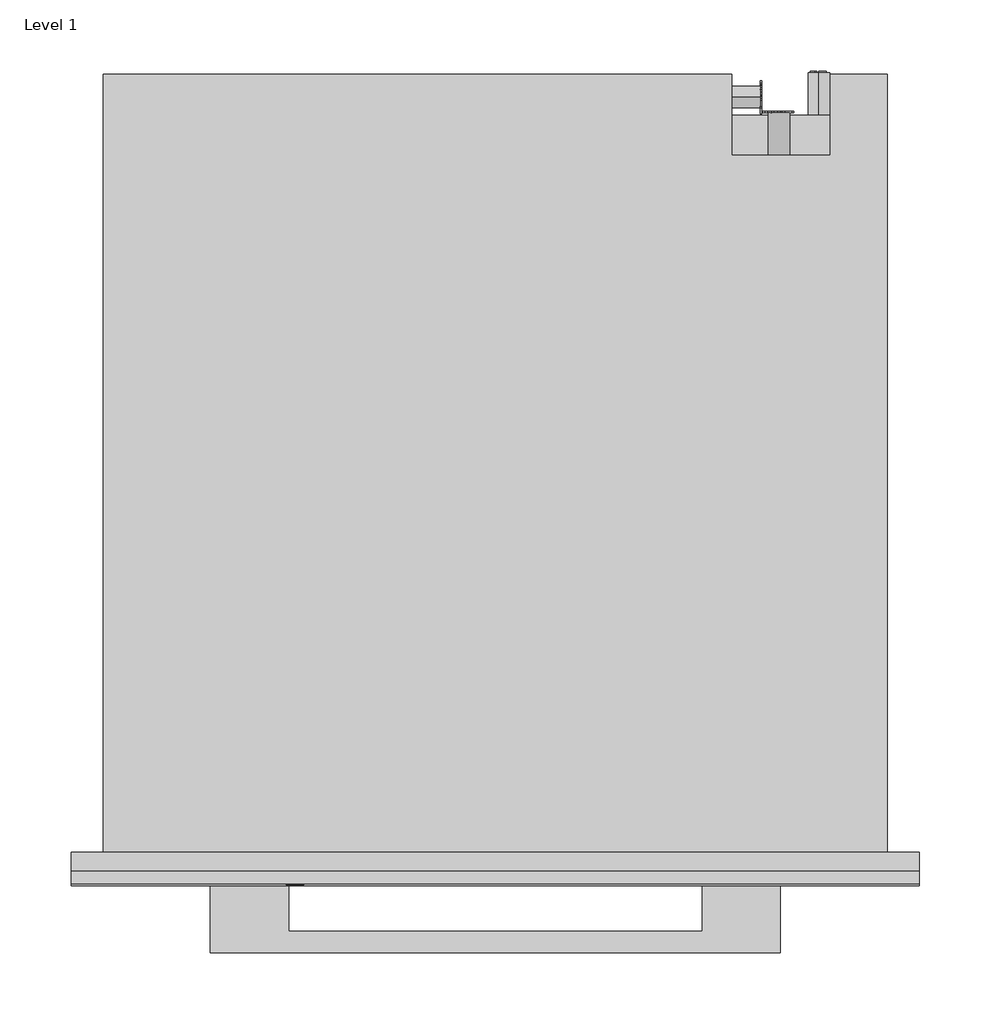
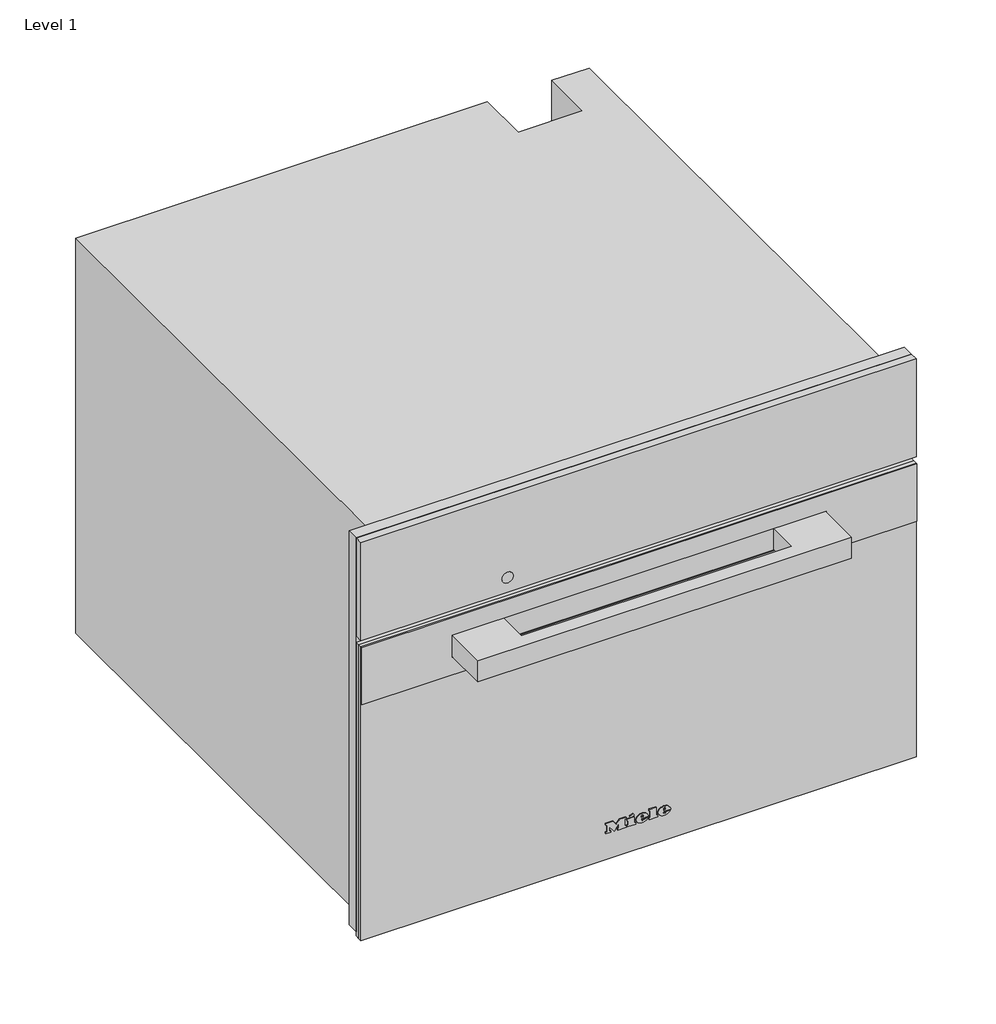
# One storey: 1 proxy.
"""IFC4 building model written with IfcOpenShell, lengths in millimetres."""

import ifcopenshell
import ifcopenshell.guid

model = None  # the IFC model being written
_history = None  # IfcOwnerHistory: only IFC2X3 demands one
_inside = {}  # id of a spatial element -> (the spatial element, [elements in it])
_under = {}  # id of a project, library or spatial element -> (it, [spatial elements below it])
_declared = {}  # id of a project -> (the project, [libraries it declares])
_typed = {}  # id of a type object -> (the type object, [elements of that type])
_made_of = {}  # id of a material, layer set ... -> (it, [elements and type objects made of it])


def new_model(schema):
    """Start an empty IFC model of exactly this schema.

    Asked for "IFC4X3", IfcOpenShell would pick the latest addendum, in which some entities
    have other attributes; the version numbers below select the first issue.
    IFC2X3 requires an IfcOwnerHistory on every rooted entity: one is made here for all.
    """
    global model, _history
    if schema == "IFC4X3":
        model = ifcopenshell.file(schema_version=(4, 3, 0, 0))
    else:
        model = ifcopenshell.file(schema=schema)
    _inside.clear()
    _under.clear()
    _declared.clear()
    _typed.clear()
    _made_of.clear()
    _history = None
    if model.schema == "IFC2X3":
        org = make("IfcOrganization", Name="unknown")
        user = make(
            "IfcPersonAndOrganization",
            ThePerson=make("IfcPerson", FamilyName="unknown"),
            TheOrganization=org,
        )
        app = make(
            "IfcApplication",
            ApplicationDeveloper=org,
            Version="unknown",
            ApplicationFullName="unknown",
            ApplicationIdentifier="unknown",
        )
        _history = make(
            "IfcOwnerHistory",
            OwningUser=user,
            OwningApplication=app,
            ChangeAction="ADDED",
            CreationDate=0,
        )
    return model


def make(cls, **values):
    """One entity of the class cls with the attributes given. An attribute that is None is left unset."""
    return model.create_entity(
        cls, **{name: value for name, value in values.items() if value is not None}
    )


def rooted(cls, **values):
    """An entity with a GlobalId (a new one), such as an element, a storey or a relation."""
    return make(cls, GlobalId=ifcopenshell.guid.new(), OwnerHistory=_history, **values)


def si_unit(unit_type, name, prefix=None):
    """IfcSIUnit, for example si_unit("LENGTHUNIT", "METRE", prefix="MILLI")."""
    return make("IfcSIUnit", UnitType=unit_type, Prefix=prefix, Name=name)


def assignment(units):
    """IfcUnitAssignment: the units of a project."""
    return None if units is None else make("IfcUnitAssignment", Units=units)


def point(xyz):
    """IfcCartesianPoint."""
    return None if xyz is None else make("IfcCartesianPoint", Coordinates=xyz)


def direction(xyz):
    """IfcDirection."""
    return None if xyz is None else make("IfcDirection", DirectionRatios=xyz)


def frame(location, z_axis=None, x_axis=None):
    """IfcAxis2Placement3D, a coordinate frame: its origin and axes. An axis left out is left unset."""
    return make(
        "IfcAxis2Placement3D",
        Location=point(location),
        Axis=direction(z_axis),
        RefDirection=direction(x_axis),
    )


def frame_2d(location, x_axis=None):
    """IfcAxis2Placement2D, a coordinate frame in the plane: its origin and x axis."""
    return make(
        "IfcAxis2Placement2D", Location=point(location), RefDirection=direction(x_axis)
    )


def origin():
    """The frame at (0, 0, 0) with its axes left unset."""
    return frame((0.0, 0.0, 0.0))


def place(relative_to, where):
    """IfcLocalPlacement: puts the frame where relative to a parent placement (None: the world)."""
    return make(
        "IfcLocalPlacement", PlacementRelTo=relative_to, RelativePlacement=where
    )


def context(
    kind, dimensions, precision=None, world=None, true_north=None, identifier=None
):
    """IfcGeometricRepresentationContext, for example the 3D "Model" context."""
    return make(
        "IfcGeometricRepresentationContext",
        ContextIdentifier=identifier,
        ContextType=kind,
        CoordinateSpaceDimension=dimensions,
        Precision=precision,
        WorldCoordinateSystem=world,
        TrueNorth=true_north,
    )


def project(units=None, contexts=None):
    """IfcProject with its units and contexts."""
    return rooted(
        "IfcProject",
        Name="project",
        RepresentationContexts=contexts,
        UnitsInContext=assignment(units),
    )


def spatial(cls, under=None, at=None, **own):
    """A site, building, storey or space (cls), placed at a placement, below another one or the project."""
    s = rooted(cls, ObjectPlacement=at, **own)
    if under is not None:
        _under.setdefault(under.id(), (under, []))[1].append(s)
    return s


def polyline(points):
    """IfcPolyline through the points."""
    return make("IfcPolyline", Points=[point(p) for p in points])


def circle_curve(where, radius):
    """IfcCircle in the frame where."""
    return make("IfcCircle", Position=where, Radius=radius)


def ellipse_curve(where, semi_axis1, semi_axis2):
    """IfcEllipse in the frame where."""
    return make(
        "IfcEllipse", Position=where, SemiAxis1=semi_axis1, SemiAxis2=semi_axis2
    )


def trimmed(basis, trim1, trim2, sense, master):
    """IfcTrimmedCurve: the piece of a basis curve between two trims."""
    return make(
        "IfcTrimmedCurve",
        BasisCurve=basis,
        Trim1=trim1,
        Trim2=trim2,
        SenseAgreement=sense,
        MasterRepresentation=master,
    )


def segment(curve, same_sense, transition):
    """IfcCompositeCurveSegment."""
    return make(
        "IfcCompositeCurveSegment",
        Transition=transition,
        SameSense=same_sense,
        ParentCurve=curve,
    )


def composite_curve(segments, self_intersect=None):
    """IfcCompositeCurve: segments joined end to end."""
    return make("IfcCompositeCurve", Segments=segments, SelfIntersect=self_intersect)


def outline(outer, holes=None, kind="AREA"):
    """IfcArbitraryClosedProfileDef: a profile drawn as a closed curve; with holes, ...WithVoids."""
    if holes is None:
        return make("IfcArbitraryClosedProfileDef", ProfileType=kind, OuterCurve=outer)
    return make(
        "IfcArbitraryProfileDefWithVoids",
        ProfileType=kind,
        OuterCurve=outer,
        InnerCurves=holes,
    )


def extrude(swept, where, along, depth):
    """IfcExtrudedAreaSolid: the profile swept, set in the frame where, extruded along a direction by depth."""
    return make(
        "IfcExtrudedAreaSolid",
        SweptArea=swept,
        Position=where,
        ExtrudedDirection=direction(along),
        Depth=depth,
    )


def faces_of(points, faces, orient=None, outer=None):
    """IfcFace entities. A face is a list of loops; a loop is a list of indices into points, from 0.

    orient and outer hold one flag for each loop. By default every Orientation is true, the
    first loop of a face is its IfcFaceOuterBound and the others are IfcFaceBound.
    """
    made = []
    for i, loops in enumerate(faces):
        bounds = []
        for j, loop in enumerate(loops):
            is_outer = j == 0 if outer is None else outer[i][j]
            bounds.append(
                make(
                    "IfcFaceOuterBound" if is_outer else "IfcFaceBound",
                    Bound=make("IfcPolyLoop", Polygon=[points[k] for k in loop]),
                    Orientation=True if orient is None else orient[i][j],
                )
            )
        made.append(make("IfcFace", Bounds=bounds))
    return made


def faceted_brep(points, faces, orient=None, outer=None, voids=None):
    """IfcFacetedBrep: a solid bounded by flat faces; with voids (closed shells), ...WithVoids."""
    shared = [point(p) for p in points]
    hull = make("IfcClosedShell", CfsFaces=faces_of(shared, faces, orient, outer))
    if voids is None:
        return make("IfcFacetedBrep", Outer=hull)
    return make(
        "IfcFacetedBrepWithVoids",
        Outer=hull,
        Voids=[
            make(cls, CfsFaces=faces_of(shared, fs, o, b)) for cls, fs, o, b in voids
        ],
    )


def shape(context_of_items, identifier, shape_type, items):
    """IfcShapeRepresentation: the items that make up one representation, for example the "Body"."""
    return make(
        "IfcShapeRepresentation",
        ContextOfItems=context_of_items,
        RepresentationIdentifier=identifier,
        RepresentationType=shape_type,
        Items=items,
    )


def source(mapping_origin, context_of_items, identifier, shape_type, items):
    """IfcRepresentationMap: a shape defined once, which mapped items show again and again."""
    return make(
        "IfcRepresentationMap",
        MappingOrigin=mapping_origin,
        MappedRepresentation=shape(context_of_items, identifier, shape_type, items),
    )


def transform(
    local_origin,
    x_axis=None,
    y_axis=None,
    z_axis=None,
    scale=None,
    scale2=None,
    scale3=None,
    uniform=True,
):
    """IfcCartesianTransformationOperator3D, or its non-uniform kind. x_axis, y_axis, z_axis: its Axis1, 2, 3."""
    if uniform:
        return make(
            "IfcCartesianTransformationOperator3D",
            Axis1=direction(x_axis),
            Axis2=direction(y_axis),
            LocalOrigin=point(local_origin),
            Scale=scale,
            Axis3=direction(z_axis),
        )
    return make(
        "IfcCartesianTransformationOperator3DnonUniform",
        Axis1=direction(x_axis),
        Axis2=direction(y_axis),
        LocalOrigin=point(local_origin),
        Scale=scale,
        Axis3=direction(z_axis),
        Scale2=scale2,
        Scale3=scale3,
    )


def mapped(mapping_source, mapping_target):
    """IfcMappedItem: shows the shape of a source again, moved by a transform."""
    return make(
        "IfcMappedItem", MappingSource=mapping_source, MappingTarget=mapping_target
    )


def made_of(thing, what):
    """Note that an element or type object is made of a material, layer set ...; save() writes the relation."""
    if what is not None:
        _made_of.setdefault(what.id(), (what, []))[1].append(thing)
    return thing


def element(
    cls,
    number,
    at=None,
    inside=None,
    cuts=None,
    type_object=None,
    material=None,
    context=None,
    identifier="Body",
    shape_type=None,
    held_by="IfcProductDefinitionShape",
    body=None,
    shapes=None,
    **own,
):
    """One element of the class cls, such as IfcWall. Its Tag is "e" and its number.

    at: its placement. inside: the storey or other place that contains it. cuts: it is an
    opening in that element (IfcRelVoidsElement). A single representation is given by context,
    identifier, shape_type and body (its items); several are given by shapes. held_by: the class
    of the entity that holds the representations. save() writes the other relations.
    """
    e = rooted(cls, Tag="e%d" % number, ObjectPlacement=at, **own)
    if body is not None:
        shapes = [shape(context, identifier, shape_type, body)]
    if shapes is not None:
        e.Representation = make(held_by, Representations=shapes)
    if inside is not None:
        _inside.setdefault(inside.id(), (inside, []))[1].append(e)
    if cuts is not None:
        rooted(
            "IfcRelVoidsElement", RelatingBuildingElement=cuts, RelatedOpeningElement=e
        )
    if type_object is not None:
        _typed.setdefault(type_object.id(), (type_object, []))[1].append(e)
    return made_of(e, material)


def aggregate(whole, parts):
    """IfcRelAggregates: a whole, such as a stair, and the parts it consists of."""
    return rooted("IfcRelAggregates", RelatingObject=whole, RelatedObjects=parts)


def save(model, path):
    """Write the relations noted so far, then the file.

    IfcRelAggregates (storeys below a building ...), IfcRelContainedInSpatialStructure (elements
    in a storey), IfcRelDefinesByType, IfcRelAssociatesMaterial and IfcRelDeclares: one each for
    every whole, place, type object, material and project.
    """
    for whole, parts in _under.values():
        aggregate(whole, parts)
    for where, things in _inside.values():
        rooted(
            "IfcRelContainedInSpatialStructure",
            RelatedElements=things,
            RelatingStructure=where,
        )
    for kind, things in _typed.values():
        rooted("IfcRelDefinesByType", RelatedObjects=things, RelatingType=kind)
    for what, things in _made_of.values():
        rooted("IfcRelAssociatesMaterial", RelatedObjects=things, RelatingMaterial=what)
    for by, libraries in _declared.values():
        rooted("IfcRelDeclares", RelatingContext=by, RelatedDefinitions=libraries)
    model.write(path)


def plane_surface(at):
    """IfcPlane: the flat surface through the origin of the frame at, square to its z axis."""
    return make("IfcPlane", Position=at)


def cylinder_surface(at, radius):
    """IfcCylindricalSurface: all points at the distance radius from the z axis of the frame at."""
    return make("IfcCylindricalSurface", Position=at, Radius=radius)


def revolved_surface(curve, axis_point, axis_direction):
    """IfcSurfaceOfRevolution: the curve turned about the line through axis_point along axis_direction."""
    return make(
        "IfcSurfaceOfRevolution",
        SweptCurve=make("IfcArbitraryOpenProfileDef", ProfileType="CURVE", Curve=curve),
        AxisPosition=make("IfcAxis1Placement", Location=point(axis_point), Axis=direction(axis_direction)),
    )


def extruded_surface(curve, direction_of_extrusion, depth):
    """IfcSurfaceOfLinearExtrusion: the curve pushed along a direction by depth."""
    return make(
        "IfcSurfaceOfLinearExtrusion",
        SweptCurve=make("IfcArbitraryOpenProfileDef", ProfileType="CURVE", Curve=curve),
        ExtrudedDirection=direction(direction_of_extrusion),
        Depth=depth,
    )


def advanced_brep(points, edges, surfaces, faces):
    """IfcAdvancedBrep: a solid bounded by faces that lie on surfaces and meet in shared edges.

    An edge is (start, end): straight between two places in points (the first is 0);
    or (start, end, curve); or (start, end, curve, False) where it runs against its curve.
    A face is (place in surfaces, loops), or (place, loops, False) where it looks against
    its surface's normal. A loop lists edges by number (the first is 1), with a minus sign
    where the edge is run from its end to its start. The first loop is the outer one.
    """
    corners = [point(p) for p in points]
    vertices = [make("IfcVertexPoint", VertexGeometry=c) for c in corners]
    made = []
    for start, end, *more in edges:
        made.append(
            make(
                "IfcEdgeCurve",
                EdgeStart=vertices[start],
                EdgeEnd=vertices[end],
                EdgeGeometry=more[0] if more else make("IfcPolyline", Points=[corners[start], corners[end]]),
                SameSense=more[1] if len(more) > 1 else True,
            )
        )
    hull = []
    for where, loops, *sense in faces:
        bounds = []
        for j, loop in enumerate(loops):
            ring = [make("IfcOrientedEdge", EdgeElement=made[abs(k) - 1], Orientation=k > 0) for k in loop]
            bounds.append(
                make(
                    "IfcFaceOuterBound" if j == 0 else "IfcFaceBound",
                    Bound=make("IfcEdgeLoop", EdgeList=ring),
                    Orientation=True,
                )
            )
        hull.append(make("IfcAdvancedFace", Bounds=bounds, FaceSurface=surfaces[where], SameSense=sense[0] if sense else True))
    return make("IfcAdvancedBrep", Outer=make("IfcClosedShell", CfsFaces=hull))


def specialty_equipment_fb1e3b41(model_context):
    return source(origin(), model_context, "Body", "SolidModel", [
        extrude(outline(polyline([(455.0, 297.5), (455.0, -297.5), (9.0, -297.5), (9.0, 297.5), (455.0, 297.5)]), holes=[polyline([(344.0, -272.5), (344.0, 272.5), (27.0, 272.5), (27.0, -272.5), (344.0, -272.5)])]), frame((0.0, -13.0, 0.0), z_axis=(0.0, 1.0, 0.0), x_axis=(0.0, 0.0, 1.0)), (0.0, 0.0, 1.0), 13.0),
        extrude(outline(polyline([(383.0, 196.9217896), (383.0, 198.4267862), (393.0435673, 201.1942402), (393.0435673, 199.9014806), (384.4295103, 197.7797951), (393.0470645, 195.3087512), (393.0470645, 193.4373937), (384.4121052, 190.9191482), (393.0472266, 188.8443938), (393.0472266, 187.5376524), (383.0, 190.2769667), (383.0, 191.6257455), (391.8347238, 194.3884733), (383.0, 196.9217896)])), frame((0.0, 519.0, 0.0), z_axis=(0.0, 1.0, 0.0), x_axis=(0.0, 0.0, 1.0)), (0.0, 0.0, 1.0), 1.0),
        extrude(outline(polyline([(393.0468463, 209.521488), (393.0468463, 208.2566067), (388.129594, 208.2566067), (393.0474898, 203.1074328), (393.0474898, 201.3597489), (388.9313111, 205.6695027), (383.0, 201.1858157), (383.0, 202.7358731), (388.0700777, 206.5685235), (386.4282746, 208.2823622), (383.0, 208.2823622), (383.0, 209.521488), (393.0468463, 209.521488)])), frame((0.0, 519.0, 0.0), z_axis=(0.0, 1.0, 0.0), x_axis=(0.0, 0.0, 1.0)), (0.0, 0.0, 1.0), 1.0),
        extrude(outline(polyline([(518.3136153, 20.0), (522.323529, 30.045631), (523.3928394, 30.045631), (527.4027531, 20.0), (526.0759254, 20.0), (524.925681, 23.1392597), (520.7882348, 23.1392597), (519.640443, 20.0), (518.3136153, 20.0)]), holes=[polyline([(521.2493136, 24.3949636), (524.4670548, 24.3949636), (523.5620651, 26.864678), (522.8581842, 28.7899271), (522.2327848, 27.0805021), (521.2493136, 24.3949636)])]), frame((186.0, 0.0, 0.0), z_axis=(1.0, 0.0, 0.0), x_axis=(0.0, 1.0, 0.0)), (0.0, 0.0, 1.0), 1.0),
        extrude(outline(polyline([(530.5420128, 20.0), (527.8025182, 30.045631), (529.0974628, 30.045631), (530.6867131, 23.4433755), (531.1772224, 21.4053092), (531.7020674, 23.207931), (533.6935352, 30.045631), (535.5599232, 30.045631), (537.0069257, 25.0890343), (538.0835937, 21.4053092), (538.5593878, 23.3845144), (540.1633533, 30.045631), (541.4582979, 30.045631), (538.7163507, 20.0), (537.3748077, 20.0), (534.9664069, 27.7500474), (534.630408, 28.8316204), (534.2527159, 27.5293182), (532.0576866, 20.0), (530.5420128, 20.0)])), frame((186.0, 0.0, 0.0), z_axis=(1.0, 0.0, 0.0), x_axis=(0.0, 1.0, 0.0)), (0.0, 0.0, 1.0), 1.0),
        advanced_brep(
        [(227.0, 547.0, 255.5), (227.0, 547.0, 240.5), (221.4098301, 547.0, 243.0), (225.5, 547.0, 243.0), (225.5, 547.0, 253.0), (224.4955303, 547.0, 253.0), (224.4955303, 547.0, 244.0), (221.0315043, 547.0, 244.0), (221.0315043, 547.0, 243.4582978), (232.0, 547.0, 243.0), (232.0, 547.0, 253.0), (227.0, 547.0, 253.0), (227.0, 547.0, 252.0), (231.0, 547.0, 252.0), (231.0, 547.0, 248.5), (228.0, 547.0, 248.5), (228.0, 547.0, 247.5), (231.0, 547.0, 247.5), (231.0, 547.0, 244.0), (227.0, 547.0, 244.0), (227.0, 547.0, 243.0), (227.0, 517.0, 240.5), (227.0, 517.0, 255.5), (232.0, 548.0, 253.0), (232.0, 548.0, 243.0), (227.0, 548.0, 243.0), (227.0, 548.0, 244.0), (231.0, 548.0, 244.0), (231.0, 548.0, 247.5), (228.0, 548.0, 247.5), (228.0, 548.0, 248.5), (231.0, 548.0, 248.5), (231.0, 548.0, 252.0), (227.0, 548.0, 252.0), (227.0, 548.0, 253.0), (225.5, 548.0, 243.0), (221.0315043, 548.0, 243.0), (221.0315043, 548.0, 244.0), (224.4955303, 548.0, 244.0), (224.4955303, 548.0, 253.0), (225.5, 548.0, 253.0), (221.0315043, 547.0, 243.0)],
        [
            (0, 1, circle_curve(frame((227.0, 547.0, 248.0), z_axis=(0.0, 1.0, 0.0), x_axis=(0.0, 0.0, 1.0)), 7.5)),
            (1, 2, circle_curve(frame((227.0, 547.0, 248.0), z_axis=(0.0, 1.0, 0.0), x_axis=(0.0, 0.0, 1.0)), 7.5)),
            (2, 3),
            (3, 4),
            (4, 5),
            (5, 6),
            (6, 7),
            (7, 8),
            (8, 0, circle_curve(frame((227.0, 547.0, 248.0), z_axis=(0.0, 1.0, 0.0), x_axis=(0.0, 0.0, 1.0)), 7.5)),
            (9, 10),
            (10, 11),
            (11, 12),
            (12, 13),
            (13, 14),
            (14, 15),
            (15, 16),
            (16, 17),
            (17, 18),
            (18, 19),
            (19, 20),
            (20, 9),
            (21, 22, circle_curve(frame((227.0, 517.0, 248.0), z_axis=(0.0, -1.0, 0.0), x_axis=(0.0, 0.0, 1.0)), 7.5)),
            (22, 21, circle_curve(frame((227.0, 517.0, 248.0), z_axis=(0.0, -1.0, 0.0), x_axis=(0.0, 0.0, 1.0)), 7.5)),
            (0, 22),
            (21, 1),
            (8, 2, circle_curve(frame((227.0, 547.0, 248.0), z_axis=(0.0, -1.0, 0.0), x_axis=(0.0, 0.0, 1.0)), 7.5)),
            (23, 24),
            (24, 25),
            (25, 26),
            (26, 27),
            (27, 28),
            (28, 29),
            (29, 30),
            (30, 31),
            (31, 32),
            (32, 33),
            (33, 34),
            (34, 23),
            (35, 36),
            (36, 37),
            (37, 38),
            (38, 39),
            (39, 40),
            (40, 35),
            (8, 41),
            (41, 2),
            (23, 10),
            (9, 24),
            (20, 25),
            (19, 26),
            (18, 27),
            (17, 28),
            (16, 29),
            (15, 30),
            (14, 31),
            (13, 32),
            (12, 33),
            (11, 34),
            (35, 3),
            (41, 36),
            (7, 37),
            (6, 38),
            (5, 39),
            (4, 40),
        ],
        [
            plane_surface(frame((227.0, 547.0, 255.5), z_axis=(0.0, 1.0, 0.0), x_axis=(1.0, 0.0, 0.0))),
            plane_surface(frame((227.0, 517.0, 255.5), z_axis=(0.0, -1.0, 0.0), x_axis=(-1.0, 0.0, 0.0))),
            cylinder_surface(frame((227.0, 547.0, 248.0), z_axis=(0.0, -1.0, 0.0), x_axis=(0.0, 0.0, 1.0)), 7.5),
            plane_surface(frame((232.0, 548.0, 253.0), z_axis=(0.0, 1.0, 0.0), x_axis=(0.0, 0.0, -1.0))),
            plane_surface(frame((232.0, 547.0, 253.0), z_axis=(0.0, -1.0, 0.0), x_axis=(0.0, 0.0, 1.0))),
            plane_surface(frame((232.0, 548.0, 253.0), z_axis=(1.0, 0.0, 0.0), x_axis=(0.0, -1.0, 0.0))),
            plane_surface(frame((232.0, 548.0, 243.0), z_axis=(0.0, 0.0, -1.0), x_axis=(0.0, -1.0, 0.0))),
            plane_surface(frame((227.0, 548.0, 243.0), z_axis=(-1.0, 0.0, 0.0), x_axis=(0.0, -1.0, 0.0))),
            plane_surface(frame((227.0, 548.0, 244.0), z_axis=(0.0, 0.0, 1.0), x_axis=(0.0, -1.0, 0.0))),
            plane_surface(frame((231.0, 548.0, 244.0), z_axis=(-1.0, 0.0, 0.0), x_axis=(0.0, -1.0, 0.0))),
            plane_surface(frame((231.0, 548.0, 247.5), z_axis=(0.0, 0.0, -1.0), x_axis=(0.0, -1.0, 0.0))),
            plane_surface(frame((228.0, 548.0, 247.5), z_axis=(-1.0, 0.0, 0.0), x_axis=(0.0, -1.0, 0.0))),
            plane_surface(frame((228.0, 548.0, 248.5), z_axis=(0.0, 0.0, 1.0), x_axis=(0.0, -1.0, 0.0))),
            plane_surface(frame((231.0, 548.0, 248.5), z_axis=(-1.0, 0.0, 0.0), x_axis=(0.0, -1.0, 0.0))),
            plane_surface(frame((231.0, 548.0, 252.0), z_axis=(0.0, 0.0, -1.0), x_axis=(0.0, -1.0, 0.0))),
            plane_surface(frame((227.0, 548.0, 252.0), z_axis=(-1.0, 0.0, 0.0), x_axis=(0.0, -1.0, 0.0))),
            plane_surface(frame((227.0, 548.0, 253.0), z_axis=(0.0, 0.0, 1.0), x_axis=(0.0, -1.0, 0.0))),
            plane_surface(frame((225.5, 548.0, 243.0), z_axis=(0.0, 0.0, -1.0), x_axis=(0.0, -1.0, 0.0))),
            plane_surface(frame((221.0315043, 548.0, 243.0), z_axis=(-1.0, 0.0, 0.0), x_axis=(0.0, -1.0, 0.0))),
            plane_surface(frame((221.0315043, 548.0, 244.0), z_axis=(0.0, 0.0, 1.0), x_axis=(0.0, -1.0, 0.0))),
            plane_surface(frame((224.4955303, 548.0, 244.0), z_axis=(-1.0, 0.0, 0.0), x_axis=(0.0, -1.0, 0.0))),
            plane_surface(frame((224.4955303, 548.0, 253.0), z_axis=(0.0, 0.0, 1.0), x_axis=(0.0, -1.0, 0.0))),
            plane_surface(frame((225.5, 548.0, 253.0), z_axis=(1.0, 0.0, 0.0), x_axis=(0.0, -1.0, 0.0))),
        ],
        [
            (0, [[1, 2, 3, 4, 5, 6, 7, 8, 9], [10, 11, 12, 13, 14, 15, 16, 17, 18, 19, 20, 21]]),
            (1, [[22, 23]]),
            (2, [[-1, 24, -22, 25]]),
            (2, [[-23, -24, -9, 26, -2, -25]]),
            (3, [[27, 28, 29, 30, 31, 32, 33, 34, 35, 36, 37, 38]]),
            (3, [[39, 40, 41, 42, 43, 44]]),
            (4, [[45, 46, -26]]),
            (5, [[-27, 47, -10, 48]]),
            (6, [[-28, -48, -21, 49]]),
            (7, [[-29, -49, -20, 50]]),
            (8, [[-30, -50, -19, 51]]),
            (9, [[-31, -51, -18, 52]]),
            (10, [[-32, -52, -17, 53]]),
            (11, [[-33, -53, -16, 54]]),
            (12, [[-34, -54, -15, 55]]),
            (13, [[-35, -55, -14, 56]]),
            (14, [[-36, -56, -13, 57]]),
            (15, [[-37, -57, -12, 58]]),
            (16, [[-38, -58, -11, -47]]),
            (17, [[-39, 59, -3, -46, 60]]),
            (18, [[-40, -60, -45, -8, 61]]),
            (19, [[-41, -61, -7, 62]]),
            (20, [[-42, -62, -6, 63]]),
            (21, [[-43, -63, -5, 64]]),
            (22, [[-44, -64, -4, -59]]),
        ],
    ),
        extrude(outline(composite_curve([segment(trimmed(circle_curve(frame_2d((388.0, 199.0)), 7.5), [point((388.0, 206.5))], [point((388.0, 191.5))], False, "CARTESIAN"), True, "CONTINUOUS"), segment(trimmed(circle_curve(frame_2d((388.0, 199.0)), 7.5), [point((388.0, 191.5))], [point((388.0, 206.5))], False, "CARTESIAN"), True, "CONTINUOUS")], self_intersect=False)), frame((0.0, 489.0, 0.0), z_axis=(0.0, 1.0, 0.0), x_axis=(0.0, 0.0, 1.0)), (0.0, 0.0, 1.0), 30.0),
        extrude(outline(composite_curve([segment(trimmed(circle_curve(frame_2d((530.0, 25.0)), 7.5), [point((530.0, 17.5))], [point((530.0, 32.5))], False, "CARTESIAN"), True, "CONTINUOUS"), segment(trimmed(circle_curve(frame_2d((530.0, 25.0)), 7.5), [point((530.0, 32.5))], [point((530.0, 17.5))], False, "CARTESIAN"), True, "CONTINUOUS")], self_intersect=False)), frame((166.0, 0.0, 0.0), z_axis=(1.0, 0.0, 0.0), x_axis=(0.0, 1.0, 0.0)), (0.0, 0.0, 1.0), 20.0),
        faceted_brep([(-275.0, 546.0, 0.0), (-275.0, 546.0, 448.0), (166.0, 546.0, 448.0), (166.0, 546.0, 0.0), (235.0, 546.0, 448.0), (275.0, 546.0, 448.0), (275.0, 546.0, 338.0), (235.0, 546.0, 338.0), (275.0, 0.0, 448.0), (-275.0, 0.0, 448.0), (-275.0, 0.0, 0.0), (275.0, 0.0, 0.0), (-272.5, 0.0, 344.0), (272.5, 0.0, 344.0), (272.5, 0.0, 27.0), (-272.5, 0.0, 27.0), (235.0, 489.0, 448.0), (166.0, 489.0, 448.0), (166.0, 517.0, 0.0), (275.0, 517.0, 0.0), (275.0, 517.0, 338.0), (272.5, 17.0, 344.0), (-272.5, 17.0, 344.0), (-272.5, 17.0, 27.0), (272.5, 17.0, 27.0), (231.0, 17.0, 307.0), (231.0, 17.0, 65.0), (-231.0, 17.0, 65.0), (-231.0, 17.0, 307.0), (231.0, 411.0, 307.0), (-231.0, 411.0, 307.0), (-231.0, 411.0, 65.0), (231.0, 411.0, 65.0), (235.0, 489.0, 337.0), (166.0, 489.0, 337.0), (166.0, 517.0, 337.0), (235.0, 517.0, 337.0), (235.0, 517.0, 338.0)], [[[0, 1, 2, 3]], [[4, 5, 6, 7]], [[8, 9, 10, 11], [12, 13, 14, 15]], [[9, 8, 5, 4, 16, 17, 2, 1]], [[1, 0, 10, 9]], [[11, 10, 0, 3, 18, 19]], [[8, 11, 19, 20, 6, 5]], [[21, 22, 23, 24], [25, 26, 27, 28]], [[22, 21, 13, 12]], [[23, 22, 12, 15]], [[24, 23, 15, 14]], [[21, 24, 14, 13]], [[29, 30, 31, 32]], [[29, 32, 26, 25]], [[32, 31, 27, 26]], [[31, 30, 28, 27]], [[30, 29, 25, 28]], [[16, 33, 34, 17]], [[17, 34, 35, 18, 3, 2]], [[34, 33, 36, 35]], [[33, 16, 4, 7, 37, 36]], [[37, 20, 19, 18, 35, 36]], [[20, 37, 7, 6]]]),
        advanced_brep(
        [(26.2998, -23.0, 36.7018), (26.2998, -23.0, 37.8532), (33.9264, -23.0, 37.8532), (20.6568, -23.0, 37.8532), (23.7918, -23.0, 34.0), (33.7326, -23.0, 36.7018), (30.2898, -23.0, 36.7018), (27.5766, -23.0, 35.425), (26.2998, -23.0, 39.3124), (26.2998, -23.0, 40.555), (28.2492, -23.0, 40.555), (28.2492, -23.0, 39.3124), (26.2998, -22.0, 36.7018), (27.5766, -22.0, 35.425), (30.2898, -22.0, 36.7018), (33.7326, -22.0, 36.7018), (23.7918, -22.0, 34.0), (20.6568, -22.0, 37.8532), (33.9264, -22.0, 37.8532), (26.2998, -22.0, 37.8532), (26.2998, -22.0, 39.3124), (28.2492, -22.0, 39.3124), (28.2492, -22.0, 40.555), (26.2998, -22.0, 40.555)],
        [
            (0, 1),
            (1, 2),
            (2, 3, ellipse_curve(frame((27.2916, -23.0, 37.8532), z_axis=(0.0, -1.0, 0.0), x_axis=(-1.0, 0.0, 0.0)), 6.6348, 5.4834)),
            (3, 4, circle_curve(frame((25.0686622, -23.0, 38.2408), z_axis=(0.0, -1.0, 0.0), x_axis=(0.0, 0.0, -1.0)), 4.4288556)),
            (4, 5, circle_curve(frame((27.1587808, -23.0, 41.2504), z_axis=(0.0, -1.0, 0.0), x_axis=(0.0, 0.0, -1.0)), 7.9940516)),
            (5, 6),
            (6, 7, circle_curve(frame((28.1338588, -23.0, 37.762), z_axis=(0.0, 1.0, 0.0), x_axis=(0.0, 0.0, -1.0)), 2.4025208)),
            (7, 0, circle_curve(frame((27.5766, -23.0, 36.7018), z_axis=(0.0, 1.0, 0.0), x_axis=(0.0, 0.0, -1.0)), 1.2768)),
            (8, 9),
            (9, 10, circle_curve(frame((27.2745, -23.0, 40.555), z_axis=(0.0, 1.0, 0.0), x_axis=(0.0, 0.0, -1.0)), 0.9747)),
            (10, 11),
            (11, 8),
            (12, 13, circle_curve(frame((27.5766, -22.0, 36.7018), z_axis=(0.0, -1.0, 0.0), x_axis=(0.0, 0.0, -1.0)), 1.2768)),
            (13, 14, circle_curve(frame((28.1338588, -22.0, 37.762), z_axis=(0.0, -1.0, 0.0), x_axis=(0.0, 0.0, -1.0)), 2.4025208)),
            (14, 15),
            (15, 16, circle_curve(frame((27.1587808, -22.0, 41.2504), z_axis=(0.0, 1.0, 0.0), x_axis=(0.0, 0.0, -1.0)), 7.9940516)),
            (16, 17, circle_curve(frame((25.0686622, -22.0, 38.2408), z_axis=(0.0, 1.0, 0.0), x_axis=(0.0, 0.0, -1.0)), 4.4288556)),
            (17, 18, ellipse_curve(frame((27.2916, -22.0, 37.8532), z_axis=(0.0, 1.0, 0.0), x_axis=(-1.0, 0.0, 0.0)), 6.6348, 5.4834)),
            (18, 19),
            (19, 12),
            (20, 21),
            (21, 22),
            (22, 23, circle_curve(frame((27.2745, -22.0, 40.555), z_axis=(0.0, -1.0, 0.0), x_axis=(0.0, 0.0, -1.0)), 0.9747)),
            (23, 20),
            (0, 12),
            (19, 1),
            (18, 2),
            (5, 15),
            (14, 6),
            (17, 3),
            (13, 7),
            (16, 4),
            (8, 20),
            (23, 9),
            (22, 10),
            (21, 11),
        ],
        [
            plane_surface(frame((26.2998, -23.0, 37.8532), z_axis=(0.0, -1.0, 0.0), x_axis=(0.0, 0.0, 1.0))),
            plane_surface(frame((26.2998, -22.0, 37.8532), z_axis=(0.0, 1.0, 0.0), x_axis=(0.0, 0.0, -1.0))),
            plane_surface(frame((26.2998, -23.0, 36.7018), z_axis=(1.0, 0.0, 0.0), x_axis=(0.0, 1.0, 0.0))),
            plane_surface(frame((26.2998, -23.0, 37.8532), z_axis=(0.0, 0.0, -1.0), x_axis=(0.0, 1.0, 0.0))),
            plane_surface(frame((33.7326, -23.0, 36.7018), z_axis=(0.0, 0.0, 1.0), x_axis=(0.0, 1.0, 0.0))),
            extruded_surface(trimmed(ellipse_curve(frame((27.2916, -21.0, 37.8532), z_axis=(0.0, -1.0, 0.0), x_axis=(-1.0, 0.0, 0.0)), 6.6348, 5.4834), [point((33.9264, -21.0, 37.8532))], [point((20.6568, -21.0, 37.8532))], True, "CARTESIAN"), (0.0, -1.0, 0.0), 1.0),
            revolved_surface(polyline([(28.1338588, -22.0, 35.3594792), (28.1338588, -23.0, 35.3594792)]), (28.1338588, -22.0, 37.762), (0.0, 1.0, 0.0)),
            revolved_surface(polyline([(27.5766, -22.0, 35.425), (27.5766, -23.0, 35.425)]), (27.5766, -22.0, 36.7018), (0.0, 1.0, 0.0)),
            cylinder_surface(frame((25.0686622, -22.0, 38.2408), z_axis=(0.0, -1.0, 0.0), x_axis=(0.0, 0.0, -1.0)), 4.4288556),
            cylinder_surface(frame((27.1587808, -22.0, 41.2504), z_axis=(0.0, -1.0, 0.0), x_axis=(0.0, 0.0, -1.0)), 7.9940516),
            plane_surface(frame((26.2998, -23.0, 39.3124), z_axis=(1.0, 0.0, 0.0), x_axis=(0.0, 1.0, 0.0))),
            revolved_surface(polyline([(27.2745, -22.0, 39.5803), (27.2745, -23.0, 39.5803)]), (27.2745, -22.0, 40.555), (0.0, 1.0, 0.0)),
            plane_surface(frame((28.2492, -23.0, 40.555), z_axis=(-1.0, 0.0, 0.0), x_axis=(0.0, 1.0, 0.0))),
            plane_surface(frame((28.2492, -23.0, 39.3124), z_axis=(0.0, 0.0, 1.0), x_axis=(0.0, 1.0, 0.0))),
        ],
        [
            (0, [[1, 2, 3, 4, 5, 6, 7, 8], [9, 10, 11, 12]]),
            (1, [[13, 14, 15, 16, 17, 18, 19, 20], [21, 22, 23, 24]]),
            (2, [[-1, 25, -20, 26]]),
            (3, [[-2, -26, -19, 27]]),
            (4, [[-6, 28, -15, 29]]),
            (5, [[-3, -27, -18, 30]]),
            (6, [[-7, -29, -14, 31]]),
            (7, [[-8, -31, -13, -25]]),
            (8, [[-4, -30, -17, 32]]),
            (9, [[-5, -32, -16, -28]]),
            (10, [[-9, 33, -24, 34]]),
            (11, [[-10, -34, -23, 35]]),
            (12, [[-11, -35, -22, 36]]),
            (13, [[-12, -36, -21, -33]]),
        ],
    ),
        advanced_brep(
        [(2.508, -23.0, 36.7018), (2.508, -23.0, 37.8532), (10.1346, -23.0, 37.8532), (-3.135, -23.0, 37.8532), (0.0, -23.0, 34.0), (9.9408, -23.0, 36.7018), (6.498, -23.0, 36.7018), (3.7848, -23.0, 35.425), (2.508, -23.0, 39.3124), (2.508, -23.0, 40.555), (4.4574, -23.0, 40.555), (4.4574, -23.0, 39.3124), (2.508, -22.0, 36.7018), (3.7848, -22.0, 35.425), (6.498, -22.0, 36.7018), (9.9408, -22.0, 36.7018), (0.0, -22.0, 34.0), (-3.135, -22.0, 37.8532), (10.1346, -22.0, 37.8532), (2.508, -22.0, 37.8532), (2.508, -22.0, 39.3124), (4.4574, -22.0, 39.3124), (4.4574, -22.0, 40.555), (2.508, -22.0, 40.555)],
        [
            (0, 1),
            (1, 2),
            (2, 3, ellipse_curve(frame((3.4998, -23.0, 37.8532), z_axis=(0.0, -1.0, 0.0), x_axis=(-1.0, 0.0, 0.0)), 6.6348, 5.4834)),
            (3, 4, circle_curve(frame((1.2768622, -23.0, 38.2408), z_axis=(0.0, -1.0, 0.0), x_axis=(0.0, 0.0, -1.0)), 4.4288556)),
            (4, 5, circle_curve(frame((3.3669808, -23.0, 41.2504), z_axis=(0.0, -1.0, 0.0), x_axis=(0.0, 0.0, -1.0)), 7.9940516)),
            (5, 6),
            (6, 7, circle_curve(frame((4.3420588, -23.0, 37.762), z_axis=(0.0, 1.0, 0.0), x_axis=(0.0, 0.0, -1.0)), 2.4025208)),
            (7, 0, circle_curve(frame((3.7848, -23.0, 36.7018), z_axis=(0.0, 1.0, 0.0), x_axis=(0.0, 0.0, -1.0)), 1.2768)),
            (8, 9),
            (9, 10, circle_curve(frame((3.4827, -23.0, 40.555), z_axis=(0.0, 1.0, 0.0), x_axis=(0.0, 0.0, -1.0)), 0.9747)),
            (10, 11),
            (11, 8),
            (12, 13, circle_curve(frame((3.7848, -22.0, 36.7018), z_axis=(0.0, -1.0, 0.0), x_axis=(0.0, 0.0, -1.0)), 1.2768)),
            (13, 14, circle_curve(frame((4.3420588, -22.0, 37.762), z_axis=(0.0, -1.0, 0.0), x_axis=(0.0, 0.0, -1.0)), 2.4025208)),
            (14, 15),
            (15, 16, circle_curve(frame((3.3669808, -22.0, 41.2504), z_axis=(0.0, 1.0, 0.0), x_axis=(0.0, 0.0, -1.0)), 7.9940516)),
            (16, 17, circle_curve(frame((1.2768622, -22.0, 38.2408), z_axis=(0.0, 1.0, 0.0), x_axis=(0.0, 0.0, -1.0)), 4.4288556)),
            (17, 18, ellipse_curve(frame((3.4998, -22.0, 37.8532), z_axis=(0.0, 1.0, 0.0), x_axis=(-1.0, 0.0, 0.0)), 6.6348, 5.4834)),
            (18, 19),
            (19, 12),
            (20, 21),
            (21, 22),
            (22, 23, circle_curve(frame((3.4827, -22.0, 40.555), z_axis=(0.0, -1.0, 0.0), x_axis=(0.0, 0.0, -1.0)), 0.9747)),
            (23, 20),
            (0, 12),
            (19, 1),
            (18, 2),
            (5, 15),
            (14, 6),
            (17, 3),
            (13, 7),
            (16, 4),
            (8, 20),
            (23, 9),
            (22, 10),
            (21, 11),
        ],
        [
            plane_surface(frame((2.508, -23.0, 37.8532), z_axis=(0.0, -1.0, 0.0), x_axis=(0.0, 0.0, 1.0))),
            plane_surface(frame((2.508, -22.0, 37.8532), z_axis=(0.0, 1.0, 0.0), x_axis=(0.0, 0.0, -1.0))),
            plane_surface(frame((2.508, -23.0, 36.7018), z_axis=(1.0, 0.0, 0.0), x_axis=(0.0, 1.0, 0.0))),
            plane_surface(frame((2.508, -23.0, 37.8532), z_axis=(0.0, 0.0, -1.0), x_axis=(0.0, 1.0, 0.0))),
            plane_surface(frame((9.9408, -23.0, 36.7018), z_axis=(0.0, 0.0, 1.0), x_axis=(0.0, 1.0, 0.0))),
            extruded_surface(trimmed(ellipse_curve(frame((3.4998, -21.0, 37.8532), z_axis=(0.0, -1.0, 0.0), x_axis=(-1.0, 0.0, 0.0)), 6.6348, 5.4834), [point((10.1346, -21.0, 37.8532))], [point((-3.135, -21.0, 37.8532))], True, "CARTESIAN"), (0.0, -1.0, 0.0), 1.0),
            revolved_surface(polyline([(4.3420588, -22.0, 35.3594792), (4.3420588, -23.0, 35.3594792)]), (4.3420588, -22.0, 37.762), (0.0, 1.0, 0.0)),
            revolved_surface(polyline([(3.7848, -22.0, 35.425), (3.7848, -23.0, 35.425)]), (3.7848, -22.0, 36.7018), (0.0, 1.0, 0.0)),
            cylinder_surface(frame((1.2768622, -22.0, 38.2408), z_axis=(0.0, -1.0, 0.0), x_axis=(0.0, 0.0, -1.0)), 4.4288556),
            cylinder_surface(frame((3.3669808, -22.0, 41.2504), z_axis=(0.0, -1.0, 0.0), x_axis=(0.0, 0.0, -1.0)), 7.9940516),
            plane_surface(frame((2.508, -23.0, 39.3124), z_axis=(1.0, 0.0, 0.0), x_axis=(0.0, 1.0, 0.0))),
            revolved_surface(polyline([(3.4827, -22.0, 39.5803), (3.4827, -23.0, 39.5803)]), (3.4827, -22.0, 40.555), (0.0, 1.0, 0.0)),
            plane_surface(frame((4.4574, -23.0, 40.555), z_axis=(-1.0, 0.0, 0.0), x_axis=(0.0, 1.0, 0.0))),
            plane_surface(frame((4.4574, -23.0, 39.3124), z_axis=(0.0, 0.0, 1.0), x_axis=(0.0, 1.0, 0.0))),
        ],
        [
            (0, [[1, 2, 3, 4, 5, 6, 7, 8], [9, 10, 11, 12]]),
            (1, [[13, 14, 15, 16, 17, 18, 19, 20], [21, 22, 23, 24]]),
            (2, [[-1, 25, -20, 26]]),
            (3, [[-2, -26, -19, 27]]),
            (4, [[-6, 28, -15, 29]]),
            (5, [[-3, -27, -18, 30]]),
            (6, [[-7, -29, -14, 31]]),
            (7, [[-8, -31, -13, -25]]),
            (8, [[-4, -30, -17, 32]]),
            (9, [[-5, -32, -16, -28]]),
            (10, [[-9, 33, -24, 34]]),
            (11, [[-10, -34, -23, 35]]),
            (12, [[-11, -35, -22, 36]]),
            (13, [[-12, -36, -21, -33]]),
        ],
    ),
        extrude(outline(polyline([(44.7274, -9.9522), (42.8806, -9.0858), (44.6818, -5.2212), (46.5286, -6.0762), (44.7274, -9.9522)])), frame((0.0, -23.0, 0.0), z_axis=(0.0, 1.0, 0.0), x_axis=(0.0, 0.0, 1.0)), (0.0, 0.0, 1.0), 1.0),
        extrude(outline(polyline([(42.6298, -12.768), (40.5892, -12.768), (40.5892, -11.4114), (35.9152, -11.4114), (35.9152, -12.768), (34.0, -12.768), (34.0, -3.7734), (35.9152, -3.7734), (35.9152, -5.0958), (42.6298, -5.0958), (42.6298, -12.768)])), frame((0.0, -23.0, 0.0), z_axis=(0.0, 1.0, 0.0), x_axis=(0.0, 0.0, 1.0)), (0.0, 0.0, 1.0), 1.0),
        extrude(outline(polyline([(43.5418, 10.773), (43.5418, 12.141), (35.9152, 12.141), (35.9152, 10.773), (34.0, 10.773), (34.0, 20.0184), (35.9152, 20.0184), (35.9152, 18.6162), (45.4, 18.6162), (45.4, 10.773), (43.5418, 10.773)])), frame((0.0, -23.0, 0.0), z_axis=(0.0, 1.0, 0.0), x_axis=(0.0, 0.0, 1.0)), (0.0, 0.0, 1.0), 1.0),
        extrude(outline(polyline([(43.5418, -35.4882), (43.5418, -34.1088), (35.9152, -34.1088), (35.9152, -35.4882), (34.0, -35.4882), (34.0, -30.4722), (35.9152, -30.4722), (35.9152, -31.8402), (40.7429247, -31.8402), (34.0, -26.7444), (40.9402223, -21.6258), (35.9152, -21.6258), (35.9152, -23.028), (34.0, -23.028), (34.0, -13.9308), (35.9152, -13.9308), (35.9152, -15.3786), (43.5418, -15.3786), (43.5418, -13.9308), (45.4, -13.9308), (45.4, -20.8734), (41.125, -24.2022), (45.4, -27.5424), (45.4, -35.4882), (43.5418, -35.4882)])), frame((0.0, -23.0, 0.0), z_axis=(0.0, 1.0, 0.0), x_axis=(0.0, 0.0, 1.0)), (0.0, 0.0, 1.0), 1.0),
        extrude(outline(polyline([(297.5, -22.0), (-297.5, -22.0), (-297.5, -13.0), (297.5, -13.0), (297.5, -22.0)])), frame((0.0, 0.0, 344.0), z_axis=(0.0, 0.0, 1.0), x_axis=(1.0, 0.0, 0.0)), (0.0, 0.0, 1.0), 111.0),
        extrude(outline(composite_curve([segment(trimmed(circle_curve(frame_2d((361.0, -140.5745637)), 6.0), [point((361.0, -146.5745637))], [point((361.0, -134.5745637))], False, "CARTESIAN"), True, "CONTINUOUS"), segment(trimmed(circle_curve(frame_2d((361.0, -140.5745637)), 6.0), [point((361.0, -134.5745637))], [point((361.0, -146.5745637))], False, "CARTESIAN"), True, "CONTINUOUS")], self_intersect=False)), frame((0.0, -22.5, 0.0), z_axis=(0.0, 1.0, 0.0), x_axis=(0.0, 0.0, 1.0)), (0.0, 0.0, 1.0), 1.0),
        extrude(outline(polyline([(337.0, 297.5), (337.0, -297.5), (272.0, -297.5), (272.0, 297.5), (337.0, 297.5)]), holes=[polyline([(317.0, -200.5), (317.0, 200.5), (292.0, 200.5), (292.0, -200.5), (317.0, -200.5)])]), frame((0.0, -23.3, 0.0), z_axis=(0.0, 1.0, 0.0), x_axis=(0.0, 0.0, 1.0)), (0.0, 0.0, 1.0), 1.3),
        extrude(outline(polyline([(-200.0, -70.3), (-200.0, -22.0), (-145.0, -22.0), (-145.0, -55.3), (145.0, -55.3), (145.0, -22.0), (200.0, -22.0), (200.0, -70.3), (-200.0, -70.3)])), frame((0.0, 0.0, 292.5), z_axis=(0.0, 0.0, 1.0), x_axis=(1.0, 0.0, 0.0)), (0.0, 0.0, 1.0), 24.0),
        extrude(outline(polyline([(-297.5, -18.0), (297.5, -18.0), (297.5, -22.0), (-297.5, -22.0), (-297.5, -18.0)])), frame((0.0, 0.0, 4.0), z_axis=(0.0, 0.0, 1.0), x_axis=(1.0, 0.0, 0.0)), (0.0, 0.0, 1.0), 333.0),
        extrude(outline(polyline([(297.5, -18.0), (-297.5, -18.0), (-297.5, -13.0), (297.5, -13.0), (297.5, -18.0)])), frame((0.0, 0.0, 4.0), z_axis=(0.0, 0.0, 1.0), x_axis=(1.0, 0.0, 0.0)), (0.0, 0.0, 1.0), 333.0),
    ])


model = new_model("IFC4")

# Units and contexts
model_context = context("Model", 3, world=origin())
ifc_project = project(units=[si_unit("LENGTHUNIT", "METRE", prefix="MILLI")], contexts=[model_context])

# Site, building, storey
site = spatial("IfcSite", under=ifc_project)
building = spatial("IfcBuilding", under=site)
storey = spatial("IfcBuildingStorey", under=building, Name="Level 1", Elevation=0.0)

# Proxy
placement = place(None, origin())
specialty_equipment_shape = specialty_equipment_fb1e3b41(model_context)
element("IfcBuildingElementProxy", 1, Name="11146950_IB_DGC7645_EDST-CLST : 23764542_IB_11146950_DGC7645_EDST-CLST", ObjectType="11146950_IB_DGC7645_EDST-CLST : 23764542_IB_11146950_DGC7645_EDST-CLST", at=placement, inside=storey, context=model_context, shape_type="MappedRepresentation", body=[
    mapped(specialty_equipment_shape, transform((0.0, 0.0, 0.0), x_axis=(1.0, 0.0, 0.0), y_axis=(0.0, 1.0, 0.0), z_axis=(0.0, 0.0, 1.0))),
])

save(model, "model.ifc")
